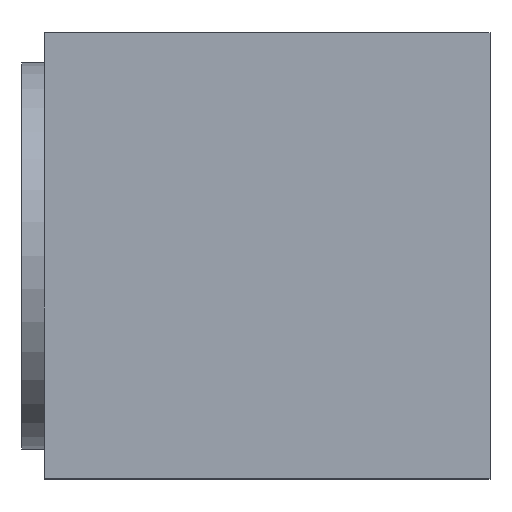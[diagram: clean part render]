
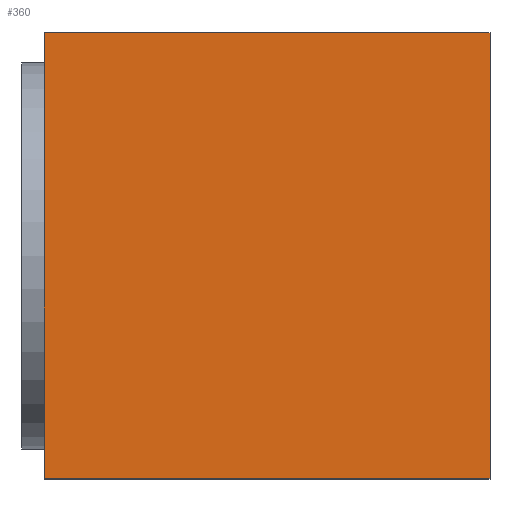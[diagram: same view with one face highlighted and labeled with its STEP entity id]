
A CAD part, top view. The second image highlights one B-rep face of the part: STEP entity #360.
In plain terms, the highlighted planar face has unit normal (0, 0, 1).
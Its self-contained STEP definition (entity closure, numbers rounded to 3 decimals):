
#46 = VERTEX_POINT('',#47);
#47 = CARTESIAN_POINT('',(-15.,-15.,22.5));
#54 = PLANE('',#55);
#55 = AXIS2_PLACEMENT_3D('',#56,#57,#58);
#56 = CARTESIAN_POINT('',(-15.,-15.,-22.5));
#57 = DIRECTION('',(1.,0.,-0.));
#58 = DIRECTION('',(0.,0.,1.));
#66 = PLANE('',#67);
#67 = AXIS2_PLACEMENT_3D('',#68,#69,#70);
#68 = CARTESIAN_POINT('',(-15.,-15.,-22.5));
#69 = DIRECTION('',(-0.,1.,0.));
#70 = DIRECTION('',(0.,0.,1.));
#107 = VERTEX_POINT('',#108);
#108 = CARTESIAN_POINT('',(-15.,15.,22.5));
#122 = PLANE('',#123);
#123 = AXIS2_PLACEMENT_3D('',#124,#125,#126);
#124 = CARTESIAN_POINT('',(-15.,15.,-22.5));
#125 = DIRECTION('',(-0.,1.,0.));
#126 = DIRECTION('',(0.,0.,1.));
#134 = EDGE_CURVE('',#46,#107,#135,.T.);
#135 = SURFACE_CURVE('',#136,(#140,#147),.PCURVE_S1.);
#136 = LINE('',#137,#138);
#137 = CARTESIAN_POINT('',(-15.,-15.,22.5));
#138 = VECTOR('',#139,1.);
#139 = DIRECTION('',(-0.,1.,0.));
#140 = PCURVE('',#54,#141);
#141 = DEFINITIONAL_REPRESENTATION('',(#142),#146);
#142 = LINE('',#143,#144);
#143 = CARTESIAN_POINT('',(45.,0.));
#144 = VECTOR('',#145,1.);
#145 = DIRECTION('',(0.,-1.));
#146 = ( GEOMETRIC_REPRESENTATION_CONTEXT(2) 
PARAMETRIC_REPRESENTATION_CONTEXT() REPRESENTATION_CONTEXT('2D SPACE',''
  ) );
#147 = PCURVE('',#148,#153);
#148 = PLANE('',#149);
#149 = AXIS2_PLACEMENT_3D('',#150,#151,#152);
#150 = CARTESIAN_POINT('',(-15.,-15.,22.5));
#151 = DIRECTION('',(0.,0.,1.));
#152 = DIRECTION('',(1.,0.,-0.));
#153 = DEFINITIONAL_REPRESENTATION('',(#154),#158);
#154 = LINE('',#155,#156);
#155 = CARTESIAN_POINT('',(0.,0.));
#156 = VECTOR('',#157,1.);
#157 = DIRECTION('',(0.,1.));
#158 = ( GEOMETRIC_REPRESENTATION_CONTEXT(2) 
PARAMETRIC_REPRESENTATION_CONTEXT() REPRESENTATION_CONTEXT('2D SPACE',''
  ) );
#166 = VERTEX_POINT('',#167);
#167 = CARTESIAN_POINT('',(15.,-15.,22.5));
#174 = PLANE('',#175);
#175 = AXIS2_PLACEMENT_3D('',#176,#177,#178);
#176 = CARTESIAN_POINT('',(15.,-15.,-22.5));
#177 = DIRECTION('',(1.,0.,-0.));
#178 = DIRECTION('',(0.,0.,1.));
#217 = VERTEX_POINT('',#218);
#218 = CARTESIAN_POINT('',(15.,15.,22.5));
#239 = EDGE_CURVE('',#166,#217,#240,.T.);
#240 = SURFACE_CURVE('',#241,(#245,#252),.PCURVE_S1.);
#241 = LINE('',#242,#243);
#242 = CARTESIAN_POINT('',(15.,-15.,22.5));
#243 = VECTOR('',#244,1.);
#244 = DIRECTION('',(-0.,1.,0.));
#245 = PCURVE('',#174,#246);
#246 = DEFINITIONAL_REPRESENTATION('',(#247),#251);
#247 = LINE('',#248,#249);
#248 = CARTESIAN_POINT('',(45.,0.));
#249 = VECTOR('',#250,1.);
#250 = DIRECTION('',(0.,-1.));
#251 = ( GEOMETRIC_REPRESENTATION_CONTEXT(2) 
PARAMETRIC_REPRESENTATION_CONTEXT() REPRESENTATION_CONTEXT('2D SPACE',''
  ) );
#252 = PCURVE('',#148,#253);
#253 = DEFINITIONAL_REPRESENTATION('',(#254),#258);
#254 = LINE('',#255,#256);
#255 = CARTESIAN_POINT('',(30.,0.));
#256 = VECTOR('',#257,1.);
#257 = DIRECTION('',(0.,1.));
#258 = ( GEOMETRIC_REPRESENTATION_CONTEXT(2) 
PARAMETRIC_REPRESENTATION_CONTEXT() REPRESENTATION_CONTEXT('2D SPACE',''
  ) );
#285 = EDGE_CURVE('',#46,#166,#286,.T.);
#286 = SURFACE_CURVE('',#287,(#291,#298),.PCURVE_S1.);
#287 = LINE('',#288,#289);
#288 = CARTESIAN_POINT('',(-15.,-15.,22.5));
#289 = VECTOR('',#290,1.);
#290 = DIRECTION('',(1.,0.,-0.));
#291 = PCURVE('',#66,#292);
#292 = DEFINITIONAL_REPRESENTATION('',(#293),#297);
#293 = LINE('',#294,#295);
#294 = CARTESIAN_POINT('',(45.,0.));
#295 = VECTOR('',#296,1.);
#296 = DIRECTION('',(0.,1.));
#297 = ( GEOMETRIC_REPRESENTATION_CONTEXT(2) 
PARAMETRIC_REPRESENTATION_CONTEXT() REPRESENTATION_CONTEXT('2D SPACE',''
  ) );
#298 = PCURVE('',#148,#299);
#299 = DEFINITIONAL_REPRESENTATION('',(#300),#304);
#300 = LINE('',#301,#302);
#301 = CARTESIAN_POINT('',(0.,0.));
#302 = VECTOR('',#303,1.);
#303 = DIRECTION('',(1.,0.));
#304 = ( GEOMETRIC_REPRESENTATION_CONTEXT(2) 
PARAMETRIC_REPRESENTATION_CONTEXT() REPRESENTATION_CONTEXT('2D SPACE',''
  ) );
#332 = EDGE_CURVE('',#107,#217,#333,.T.);
#333 = SURFACE_CURVE('',#334,(#338,#345),.PCURVE_S1.);
#334 = LINE('',#335,#336);
#335 = CARTESIAN_POINT('',(-15.,15.,22.5));
#336 = VECTOR('',#337,1.);
#337 = DIRECTION('',(1.,0.,-0.));
#338 = PCURVE('',#122,#339);
#339 = DEFINITIONAL_REPRESENTATION('',(#340),#344);
#340 = LINE('',#341,#342);
#341 = CARTESIAN_POINT('',(45.,0.));
#342 = VECTOR('',#343,1.);
#343 = DIRECTION('',(0.,1.));
#344 = ( GEOMETRIC_REPRESENTATION_CONTEXT(2) 
PARAMETRIC_REPRESENTATION_CONTEXT() REPRESENTATION_CONTEXT('2D SPACE',''
  ) );
#345 = PCURVE('',#148,#346);
#346 = DEFINITIONAL_REPRESENTATION('',(#347),#351);
#347 = LINE('',#348,#349);
#348 = CARTESIAN_POINT('',(0.,30.));
#349 = VECTOR('',#350,1.);
#350 = DIRECTION('',(1.,0.));
#351 = ( GEOMETRIC_REPRESENTATION_CONTEXT(2) 
PARAMETRIC_REPRESENTATION_CONTEXT() REPRESENTATION_CONTEXT('2D SPACE',''
  ) );
#360 = ADVANCED_FACE('',(#361),#148,.T.);
#361 = FACE_BOUND('',#362,.T.);
#362 = EDGE_LOOP('',(#363,#364,#365,#366));
#363 = ORIENTED_EDGE('',*,*,#134,.F.);
#364 = ORIENTED_EDGE('',*,*,#285,.T.);
#365 = ORIENTED_EDGE('',*,*,#239,.T.);
#366 = ORIENTED_EDGE('',*,*,#332,.F.);
